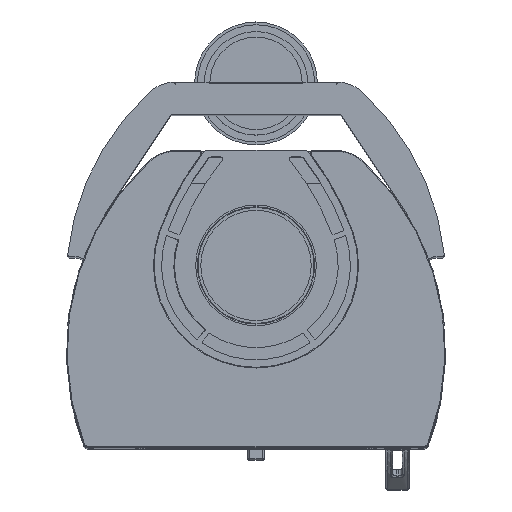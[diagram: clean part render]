
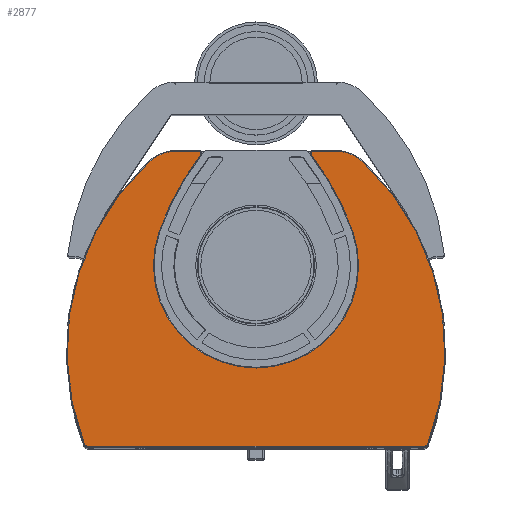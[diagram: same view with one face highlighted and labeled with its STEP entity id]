
A CAD part, top view. The second image highlights one B-rep face of the part: STEP entity #2877.
In plain terms, the highlighted planar face has unit normal (0, 0, 1).
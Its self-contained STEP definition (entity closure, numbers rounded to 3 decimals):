
#2877 = ADVANCED_FACE( '', ( #7393 ), #7394, .F. );
#7393 = FACE_OUTER_BOUND( '', #16369, .T. );
#7394 = PLANE( '', #16370 );
#16369 = EDGE_LOOP( '', ( #39112, #39113, #39114, #39115, #39116, #39117, #39118, #39119, #39120, #39121, #39122, #39123, #39124, #39125, #39126, #39127, #39128, #39129 ) );
#16370 = AXIS2_PLACEMENT_3D( '', #39130, #39131, #39132 );
#39112 = ORIENTED_EDGE( '', *, *, #56679, .T. );
#39113 = ORIENTED_EDGE( '', *, *, #55618, .T. );
#39114 = ORIENTED_EDGE( '', *, *, #56680, .T. );
#39115 = ORIENTED_EDGE( '', *, *, #56681, .T. );
#39116 = ORIENTED_EDGE( '', *, *, #56682, .T. );
#39117 = ORIENTED_EDGE( '', *, *, #56517, .T. );
#39118 = ORIENTED_EDGE( '', *, *, #56683, .T. );
#39119 = ORIENTED_EDGE( '', *, *, #56684, .T. );
#39120 = ORIENTED_EDGE( '', *, *, #56685, .T. );
#39121 = ORIENTED_EDGE( '', *, *, #56686, .T. );
#39122 = ORIENTED_EDGE( '', *, *, #56687, .T. );
#39123 = ORIENTED_EDGE( '', *, *, #56688, .T. );
#39124 = ORIENTED_EDGE( '', *, *, #56689, .T. );
#39125 = ORIENTED_EDGE( '', *, *, #55057, .T. );
#39126 = ORIENTED_EDGE( '', *, *, #56690, .T. );
#39127 = ORIENTED_EDGE( '', *, *, #56691, .T. );
#39128 = ORIENTED_EDGE( '', *, *, #55239, .T. );
#39129 = ORIENTED_EDGE( '', *, *, #56692, .T. );
#39130 = CARTESIAN_POINT( '', ( -243.81, -524., 1600. ) );
#39131 = DIRECTION( '', ( 0., 0., -1. ) );
#39132 = DIRECTION( '', ( -1., 0., 0. ) );
#55057 = EDGE_CURVE( '', #62248, #62253, #62255, .F. );
#55239 = EDGE_CURVE( '', #62570, #62575, #62577, .T. );
#55618 = EDGE_CURVE( '', #63259, #63257, #63260, .F. );
#56517 = EDGE_CURVE( '', #64759, #64757, #64760, .F. );
#56679 = EDGE_CURVE( '', #65033, #63259, #65034, .T. );
#56680 = EDGE_CURVE( '', #63257, #65035, #65036, .F. );
#56681 = EDGE_CURVE( '', #65035, #65037, #65038, .F. );
#56682 = EDGE_CURVE( '', #65037, #64759, #65039, .F. );
#56683 = EDGE_CURVE( '', #64757, #65040, #65041, .F. );
#56684 = EDGE_CURVE( '', #65040, #65042, #65043, .F. );
#56685 = EDGE_CURVE( '', #65042, #65044, #65045, .F. );
#56686 = EDGE_CURVE( '', #65044, #65046, #65047, .F. );
#56687 = EDGE_CURVE( '', #65046, #65048, #65049, .F. );
#56688 = EDGE_CURVE( '', #65048, #65050, #65051, .F. );
#56689 = EDGE_CURVE( '', #65050, #62248, #65052, .F. );
#56690 = EDGE_CURVE( '', #62253, #65053, #65054, .F. );
#56691 = EDGE_CURVE( '', #65053, #62570, #65055, .F. );
#56692 = EDGE_CURVE( '', #62575, #65033, #65056, .T. );
#62248 = VERTEX_POINT( '', #74009 );
#62253 = VERTEX_POINT( '', #74014 );
#62255 = CIRCLE( '', #74016, 3. );
#62570 = VERTEX_POINT( '', #75164 );
#62575 = VERTEX_POINT( '', #75169 );
#62577 = CIRCLE( '', #75171, 402. );
#63257 = VERTEX_POINT( '', #78498 );
#63259 = VERTEX_POINT( '', #78500 );
#63260 = CIRCLE( '', #78501, 4. );
#64757 = VERTEX_POINT( '', #83032 );
#64759 = VERTEX_POINT( '', #83034 );
#64760 = CIRCLE( '', #83035, 59. );
#65033 = VERTEX_POINT( '', #84664 );
#65034 = CIRCLE( '', #84665, 402. );
#65035 = VERTEX_POINT( '', #84666 );
#65036 = LINE( '', #84667, #84668 );
#65037 = VERTEX_POINT( '', #84669 );
#65038 = CIRCLE( '', #84670, 3. );
#65039 = LINE( '', #84671, #84672 );
#65040 = VERTEX_POINT( '', #84673 );
#65041 = CIRCLE( '', #84674, 374. );
#65042 = VERTEX_POINT( '', #84675 );
#65043 = CIRCLE( '', #84676, 5. );
#65044 = VERTEX_POINT( '', #84677 );
#65045 = LINE( '', #84678, #84679 );
#65046 = VERTEX_POINT( '', #84680 );
#65047 = CIRCLE( '', #84681, 5. );
#65048 = VERTEX_POINT( '', #84682 );
#65049 = CIRCLE( '', #84683, 374. );
#65050 = VERTEX_POINT( '', #84684 );
#65051 = CIRCLE( '', #84685, 59. );
#65052 = LINE( '', #84686, #84687 );
#65053 = VERTEX_POINT( '', #84688 );
#65054 = LINE( '', #84689, #84690 );
#65055 = CIRCLE( '', #84691, 4. );
#65056 = CIRCLE( '', #84692, 148.719 );
#74009 = CARTESIAN_POINT( '', ( 83., -101., 1600. ) );
#74014 = CARTESIAN_POINT( '', ( 80., -104., 1600. ) );
#74016 = AXIS2_PLACEMENT_3D( '', #111627, #111628, #111629 );
#75164 = CARTESIAN_POINT( '', ( 80.818, -107.02, 1600. ) );
#75169 = CARTESIAN_POINT( '', ( 140.308, -217.361, 1600. ) );
#75171 = AXIS2_PLACEMENT_3D( '', #111837, #111838, #111839 );
#78498 = CARTESIAN_POINT( '', ( -80., -104.596, 1600. ) );
#78500 = CARTESIAN_POINT( '', ( -80.818, -107.02, 1600. ) );
#78501 = AXIS2_PLACEMENT_3D( '', #112339, #112340, #112341 );
#83032 = CARTESIAN_POINT( '', ( -155.546, -116.921, 1600. ) );
#83034 = CARTESIAN_POINT( '', ( -115.232, -101., 1600. ) );
#83035 = AXIS2_PLACEMENT_3D( '', #113319, #113320, #113321 );
#84664 = CARTESIAN_POINT( '', ( -140.308, -217.361, 1600. ) );
#84665 = AXIS2_PLACEMENT_3D( '', #113512, #113513, #113514 );
#84666 = CARTESIAN_POINT( '', ( -80., -104., 1600. ) );
#84667 = CARTESIAN_POINT( '', ( -80., -104., 1600. ) );
#84668 = VECTOR( '', #113515, 1000. );
#84669 = CARTESIAN_POINT( '', ( -83., -101., 1600. ) );
#84670 = AXIS2_PLACEMENT_3D( '', #113516, #113517, #113518 );
#84671 = CARTESIAN_POINT( '', ( -115.232, -101., 1600. ) );
#84672 = VECTOR( '', #113519, 1000. );
#84673 = CARTESIAN_POINT( '', ( -248.468, -525.816, 1600. ) );
#84674 = AXIS2_PLACEMENT_3D( '', #113520, #113521, #113522 );
#84675 = CARTESIAN_POINT( '', ( -243.81, -529., 1600. ) );
#84676 = AXIS2_PLACEMENT_3D( '', #113523, #113524, #113525 );
#84677 = CARTESIAN_POINT( '', ( 243.81, -529., 1600. ) );
#84678 = CARTESIAN_POINT( '', ( 243.81, -529., 1600. ) );
#84679 = VECTOR( '', #113526, 1000. );
#84680 = CARTESIAN_POINT( '', ( 248.468, -525.816, 1600. ) );
#84681 = AXIS2_PLACEMENT_3D( '', #113527, #113528, #113529 );
#84682 = CARTESIAN_POINT( '', ( 155.546, -116.921, 1600. ) );
#84683 = AXIS2_PLACEMENT_3D( '', #113530, #113531, #113532 );
#84684 = CARTESIAN_POINT( '', ( 115.232, -101., 1600. ) );
#84685 = AXIS2_PLACEMENT_3D( '', #113533, #113534, #113535 );
#84686 = CARTESIAN_POINT( '', ( 83., -101., 1600. ) );
#84687 = VECTOR( '', #113536, 1000. );
#84688 = CARTESIAN_POINT( '', ( 80., -104.596, 1600. ) );
#84689 = CARTESIAN_POINT( '', ( 80., -104.596, 1600. ) );
#84690 = VECTOR( '', #113537, 1000. );
#84691 = AXIS2_PLACEMENT_3D( '', #113538, #113539, #113540 );
#84692 = AXIS2_PLACEMENT_3D( '', #113541, #113542, #113543 );
#111627 = CARTESIAN_POINT( '', ( 83., -104., 1600. ) );
#111628 = DIRECTION( '', ( 0., 0., -1. ) );
#111629 = DIRECTION( '', ( -1., 0., 0. ) );
#111837 = CARTESIAN_POINT( '', ( -238.957, -350.634, 1600. ) );
#111838 = DIRECTION( '', ( 0., 0., -1. ) );
#111839 = DIRECTION( '', ( -1., 0., 0. ) );
#112339 = CARTESIAN_POINT( '', ( -84., -104.596, 1600. ) );
#112340 = DIRECTION( '', ( 0., 0., -1. ) );
#112341 = DIRECTION( '', ( -1., 0., 0. ) );
#113319 = CARTESIAN_POINT( '', ( -115.232, -160., 1600. ) );
#113320 = DIRECTION( '', ( 0., 0., -1. ) );
#113321 = DIRECTION( '', ( -1., 0., 0. ) );
#113512 = CARTESIAN_POINT( '', ( 238.957, -350.634, 1600. ) );
#113513 = DIRECTION( '', ( 0., 0., -1. ) );
#113514 = DIRECTION( '', ( -1., 0., 0. ) );
#113515 = DIRECTION( '', ( 0., -1., 0. ) );
#113516 = CARTESIAN_POINT( '', ( -83., -104., 1600. ) );
#113517 = DIRECTION( '', ( 0., 0., -1. ) );
#113518 = DIRECTION( '', ( -1., 0., 0. ) );
#113519 = DIRECTION( '', ( 1., 0., 0. ) );
#113520 = CARTESIAN_POINT( '', ( 100., -390., 1600. ) );
#113521 = DIRECTION( '', ( 0., 0., -1. ) );
#113522 = DIRECTION( '', ( -1., 0., 0. ) );
#113523 = CARTESIAN_POINT( '', ( -243.81, -524., 1600. ) );
#113524 = DIRECTION( '', ( 0., 0., -1. ) );
#113525 = DIRECTION( '', ( -1., 0., 0. ) );
#113526 = DIRECTION( '', ( -1., 0., 0. ) );
#113527 = CARTESIAN_POINT( '', ( 243.81, -524., 1600. ) );
#113528 = DIRECTION( '', ( 0., 0., -1. ) );
#113529 = DIRECTION( '', ( -1., 0., 0. ) );
#113530 = CARTESIAN_POINT( '', ( -100., -390., 1600. ) );
#113531 = DIRECTION( '', ( 0., 0., -1. ) );
#113532 = DIRECTION( '', ( -1., 0., 0. ) );
#113533 = CARTESIAN_POINT( '', ( 115.232, -160., 1600. ) );
#113534 = DIRECTION( '', ( 0., 0., -1. ) );
#113535 = DIRECTION( '', ( -1., 0., 0. ) );
#113536 = DIRECTION( '', ( 1., 0., 0. ) );
#113537 = DIRECTION( '', ( 0., 1., 0. ) );
#113538 = CARTESIAN_POINT( '', ( 84., -104.596, 1600. ) );
#113539 = DIRECTION( '', ( 0., 0., -1. ) );
#113540 = DIRECTION( '', ( -1., 0., 0. ) );
#113541 = CARTESIAN_POINT( '', ( 0., -266.665, 1600. ) );
#113542 = DIRECTION( '', ( 0., 0., -1. ) );
#113543 = DIRECTION( '', ( -1., 0., 0. ) );
